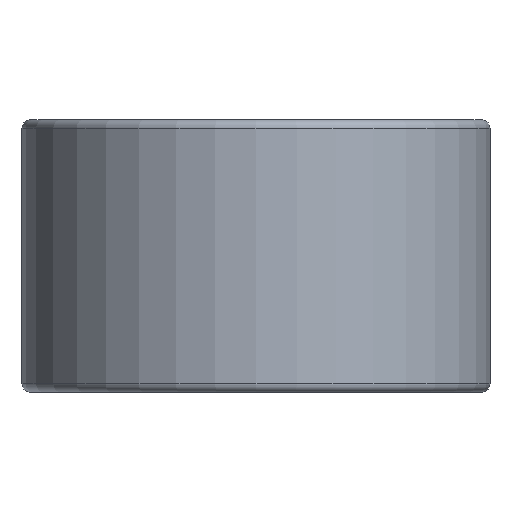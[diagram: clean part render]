
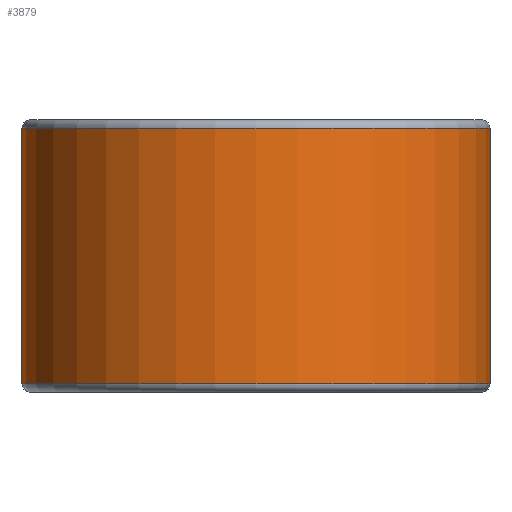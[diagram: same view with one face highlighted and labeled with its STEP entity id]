
A CAD part, front view. The second image highlights one B-rep face of the part: STEP entity #3879.
In plain terms, the highlighted cylindrical face has radius 2.75 mm (diameter 5.5 mm), a partial arc.
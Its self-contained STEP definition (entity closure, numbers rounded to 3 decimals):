
#83 = LINE ( 'NONE', #2694, #915 ) ;
#171 = DIRECTION ( 'NONE',  ( 0., 0., -1. ) ) ;
#207 = CARTESIAN_POINT ( 'NONE',  ( 0., 0., 0.1 ) ) ;
#257 = DIRECTION ( 'NONE',  ( 0., 0., -1. ) ) ;
#292 = DIRECTION ( 'NONE',  ( 1., 0., 0. ) ) ;
#320 = CARTESIAN_POINT ( 'NONE',  ( -2.75, 0., 0.1 ) ) ;
#334 = CIRCLE ( 'NONE', #1308, 2.75 ) ;
#410 = AXIS2_PLACEMENT_3D ( 'NONE', #207, #862, #1489 ) ;
#456 = EDGE_CURVE ( 'NONE', #1142, #3719, #334, .T. ) ;
#578 = CIRCLE ( 'NONE', #410, 2.75 ) ;
#622 = CARTESIAN_POINT ( 'NONE',  ( 0., 0., 3.1 ) ) ;
#862 = DIRECTION ( 'NONE',  ( 0., 0., 1. ) ) ;
#915 = VECTOR ( 'NONE', #171, 1000. ) ;
#1142 = VERTEX_POINT ( 'NONE', #2571 ) ;
#1295 = VERTEX_POINT ( 'NONE', #3957 ) ;
#1308 = AXIS2_PLACEMENT_3D ( 'NONE', #622, #1964, #292 ) ;
#1321 = LINE ( 'NONE', #3899, #3996 ) ;
#1489 = DIRECTION ( 'NONE',  ( 1., 0., 0. ) ) ;
#1537 = DIRECTION ( 'NONE',  ( 0., 0., -1. ) ) ;
#1538 = AXIS2_PLACEMENT_3D ( 'NONE', #2172, #257, #2499 ) ;
#1567 = CYLINDRICAL_SURFACE ( 'NONE', #1538, 2.75 ) ;
#1595 = ORIENTED_EDGE ( 'NONE', *, *, #4022, .T. ) ;
#1716 = VERTEX_POINT ( 'NONE', #320 ) ;
#1964 = DIRECTION ( 'NONE',  ( 0., 0., -1. ) ) ;
#2050 = EDGE_LOOP ( 'NONE', ( #2570, #2165, #1595, #3621 ) ) ;
#2087 = EDGE_CURVE ( 'NONE', #1716, #1295, #578, .T. ) ;
#2165 = ORIENTED_EDGE ( 'NONE', *, *, #456, .T. ) ;
#2172 = CARTESIAN_POINT ( 'NONE',  ( 0., 0., 1. ) ) ;
#2499 = DIRECTION ( 'NONE',  ( -1., 0., 0. ) ) ;
#2570 = ORIENTED_EDGE ( 'NONE', *, *, #2607, .F. ) ;
#2571 = CARTESIAN_POINT ( 'NONE',  ( 2.75, 0., 3.1 ) ) ;
#2607 = EDGE_CURVE ( 'NONE', #1142, #1295, #83, .T. ) ;
#2694 = CARTESIAN_POINT ( 'NONE',  ( 2.75, 0., 1. ) ) ;
#2700 = CARTESIAN_POINT ( 'NONE',  ( -2.75, 0., 3.1 ) ) ;
#3115 = FACE_OUTER_BOUND ( 'NONE', #2050, .T. ) ;
#3621 = ORIENTED_EDGE ( 'NONE', *, *, #2087, .T. ) ;
#3719 = VERTEX_POINT ( 'NONE', #2700 ) ;
#3879 = ADVANCED_FACE ( 'NONE', ( #3115 ), #1567, .T. ) ;
#3899 = CARTESIAN_POINT ( 'NONE',  ( -2.75, 0., 1. ) ) ;
#3957 = CARTESIAN_POINT ( 'NONE',  ( 2.75, 0., 0.1 ) ) ;
#3996 = VECTOR ( 'NONE', #1537, 1000. ) ;
#4022 = EDGE_CURVE ( 'NONE', #3719, #1716, #1321, .T. ) ;
